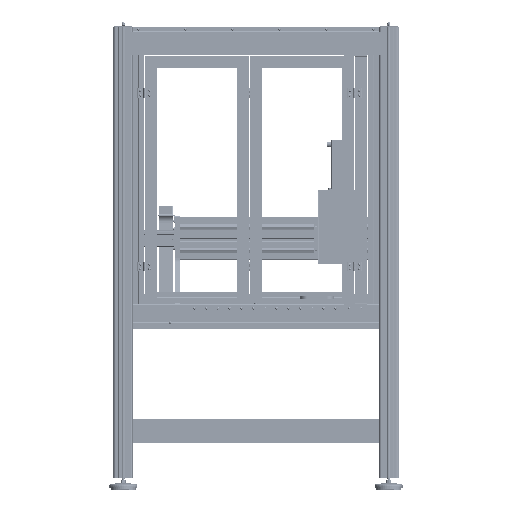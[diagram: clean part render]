
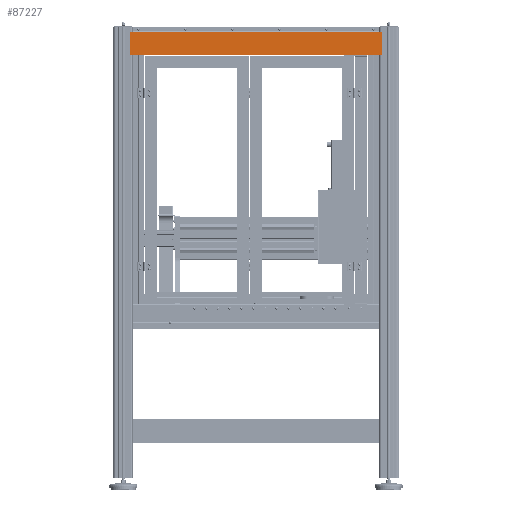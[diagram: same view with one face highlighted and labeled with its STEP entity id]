
A CAD part, top view. The second image highlights one B-rep face of the part: STEP entity #87227.
In plain terms, the highlighted planar face has unit normal (0, 0, 1).
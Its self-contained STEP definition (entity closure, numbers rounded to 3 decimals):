
#14755 = LINE ( 'NONE', #302704, #428215 ) ;
#17360 = CARTESIAN_POINT ( 'NONE',  ( 534., 1165.9, 600.499 ) ) ;
#31571 = VERTEX_POINT ( 'NONE', #606799 ) ;
#54420 = ORIENTED_EDGE ( 'NONE', *, *, #277621, .T. ) ;
#65586 = EDGE_CURVE ( 'NONE', #118252, #460780, #148031, .T. ) ;
#87227 = ADVANCED_FACE ( 'NONE', ( #95105 ), #320242, .F. ) ;
#89020 = DIRECTION ( 'NONE',  ( 0., 1., 0. ) ) ;
#95105 = FACE_OUTER_BOUND ( 'NONE', #116084, .T. ) ;
#116084 = EDGE_LOOP ( 'NONE', ( #453758, #341804, #332757, #331808, #216584, #212377, #196088, #54420 ) ) ;
#118252 = VERTEX_POINT ( 'NONE', #17360 ) ;
#123556 = VECTOR ( 'NONE', #164808, 1000. ) ;
#124900 = LINE ( 'NONE', #593469, #123556 ) ;
#146749 = VECTOR ( 'NONE', #163034, 1000. ) ;
#148031 = LINE ( 'NONE', #217135, #146749 ) ;
#163034 = DIRECTION ( 'NONE',  ( -1., 0., 0. ) ) ;
#164808 = DIRECTION ( 'NONE',  ( -1., 0., 0. ) ) ;
#174463 = EDGE_CURVE ( 'NONE', #491419, #492783, #267470, .T. ) ;
#196088 = ORIENTED_EDGE ( 'NONE', *, *, #234910, .T. ) ;
#212375 = CARTESIAN_POINT ( 'NONE',  ( 524., 1069.6, 600.499 ) ) ;
#212377 = ORIENTED_EDGE ( 'NONE', *, *, #363032, .T. ) ;
#216584 = ORIENTED_EDGE ( 'NONE', *, *, #673979, .F. ) ;
#217135 = CARTESIAN_POINT ( 'NONE',  ( 524., 1165.9, 600.499 ) ) ;
#224879 = DIRECTION ( 'NONE',  ( 1., 0., 0. ) ) ;
#234910 = EDGE_CURVE ( 'NONE', #31571, #353072, #437139, .T. ) ;
#246351 = CARTESIAN_POINT ( 'NONE',  ( -524., 1165.9, 600.499 ) ) ;
#253563 = CARTESIAN_POINT ( 'NONE',  ( -534., 1069.6, 600.499 ) ) ;
#266130 = VECTOR ( 'NONE', #466849, 1000. ) ;
#267470 = LINE ( 'NONE', #681090, #266130 ) ;
#276093 = CARTESIAN_POINT ( 'NONE',  ( 534., 1069.6, 600.499 ) ) ;
#277621 = EDGE_CURVE ( 'NONE', #353072, #407826, #339793, .T. ) ;
#278986 = CARTESIAN_POINT ( 'NONE',  ( -524., 1069.6, 600.499 ) ) ;
#289574 = EDGE_CURVE ( 'NONE', #492783, #118252, #546874, .T. ) ;
#302704 = CARTESIAN_POINT ( 'NONE',  ( 524., 1165.9, 600.499 ) ) ;
#320242 = PLANE ( 'NONE',  #461274 ) ;
#331808 = ORIENTED_EDGE ( 'NONE', *, *, #65586, .T. ) ;
#332757 = ORIENTED_EDGE ( 'NONE', *, *, #289574, .T. ) ;
#336103 = VECTOR ( 'NONE', #669059, 1000. ) ;
#339793 = LINE ( 'NONE', #346517, #336103 ) ;
#341804 = ORIENTED_EDGE ( 'NONE', *, *, #174463, .T. ) ;
#342604 = CARTESIAN_POINT ( 'NONE',  ( 524., 1165.9, 600.499 ) ) ;
#346517 = CARTESIAN_POINT ( 'NONE',  ( -524., 1069.6, 600.499 ) ) ;
#353072 = VERTEX_POINT ( 'NONE', #253563 ) ;
#354723 = VECTOR ( 'NONE', #224879, 1000. ) ;
#360215 = LINE ( 'NONE', #278986, #354723 ) ;
#363032 = EDGE_CURVE ( 'NONE', #541794, #31571, #124900, .T. ) ;
#374551 = DIRECTION ( 'NONE',  ( 1., 0., 0. ) ) ;
#397502 = CARTESIAN_POINT ( 'NONE',  ( -524., 1069.6, 600.499 ) ) ;
#407826 = VERTEX_POINT ( 'NONE', #397502 ) ;
#413641 = DIRECTION ( 'NONE',  ( 1., 0., 0. ) ) ;
#428215 = VECTOR ( 'NONE', #413641, 1000. ) ;
#436460 = VECTOR ( 'NONE', #437880, 1000. ) ;
#437139 = LINE ( 'NONE', #543872, #436460 ) ;
#437880 = DIRECTION ( 'NONE',  ( 0., -1., 0. ) ) ;
#449941 = EDGE_CURVE ( 'NONE', #407826, #491419, #360215, .T. ) ;
#453758 = ORIENTED_EDGE ( 'NONE', *, *, #449941, .T. ) ;
#460780 = VERTEX_POINT ( 'NONE', #342604 ) ;
#461274 = AXIS2_PLACEMENT_3D ( 'NONE', #642826, #697113, #374551 ) ;
#466849 = DIRECTION ( 'NONE',  ( 1., 0., 0. ) ) ;
#491419 = VERTEX_POINT ( 'NONE', #212375 ) ;
#492783 = VERTEX_POINT ( 'NONE', #276093 ) ;
#541794 = VERTEX_POINT ( 'NONE', #246351 ) ;
#543872 = CARTESIAN_POINT ( 'NONE',  ( -534., 1069.6, 600.499 ) ) ;
#544626 = VECTOR ( 'NONE', #89020, 1000. ) ;
#546874 = LINE ( 'NONE', #571980, #544626 ) ;
#571980 = CARTESIAN_POINT ( 'NONE',  ( 534., 1069.6, 600.499 ) ) ;
#593469 = CARTESIAN_POINT ( 'NONE',  ( -524., 1165.9, 600.499 ) ) ;
#606799 = CARTESIAN_POINT ( 'NONE',  ( -534., 1165.9, 600.499 ) ) ;
#642826 = CARTESIAN_POINT ( 'NONE',  ( 524., 1066.5, 600.499 ) ) ;
#669059 = DIRECTION ( 'NONE',  ( 1., 0., 0. ) ) ;
#673979 = EDGE_CURVE ( 'NONE', #541794, #460780, #14755, .T. ) ;
#681090 = CARTESIAN_POINT ( 'NONE',  ( 524., 1069.6, 600.499 ) ) ;
#697113 = DIRECTION ( 'NONE',  ( 0., 0., -1. ) ) ;
